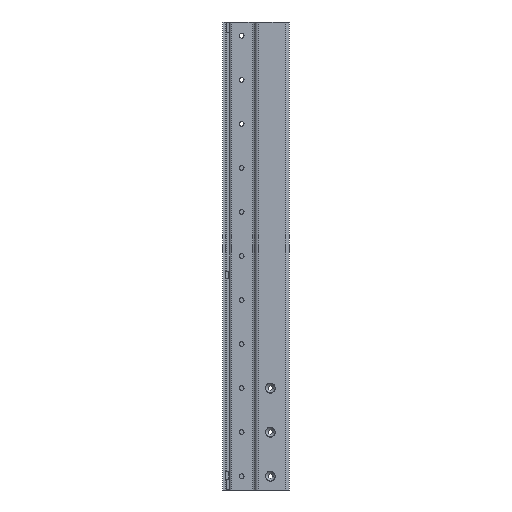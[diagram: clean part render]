
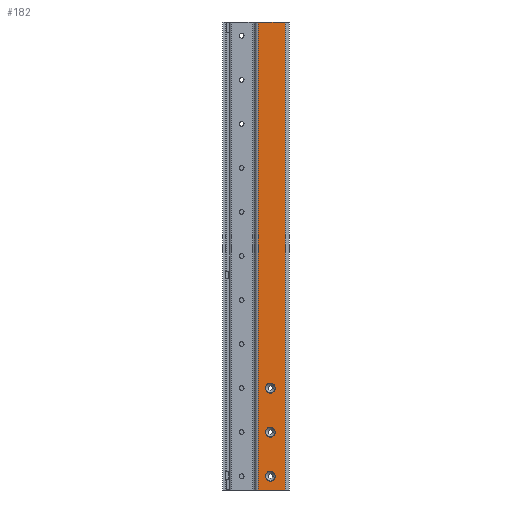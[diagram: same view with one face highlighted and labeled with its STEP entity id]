
A CAD part, left-side view. The second image highlights one B-rep face of the part: STEP entity #182.
In plain terms, the highlighted planar face has unit normal (-1, 0, 0).
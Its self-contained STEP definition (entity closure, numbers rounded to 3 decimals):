
#182=ADVANCED_FACE('',(#581,#582,#583,#584),#585,.T.);
#581=FACE_BOUND('',#1227,.T.);
#582=FACE_BOUND('',#1228,.T.);
#583=FACE_BOUND('',#1229,.T.);
#584=FACE_OUTER_BOUND('',#1230,.T.);
#585=PLANE('',#1231);
#1227=EDGE_LOOP('',(#2443,#2444));
#1228=EDGE_LOOP('',(#2445,#2446));
#1229=EDGE_LOOP('',(#2447,#2448));
#1230=EDGE_LOOP('',(#2449,#2450,#2451,#2452));
#1231=AXIS2_PLACEMENT_3D('',#2453,#2454,#2455);
#2443=ORIENTED_EDGE('',*,*,#4102,.T.);
#2444=ORIENTED_EDGE('',*,*,#4328,.T.);
#2445=ORIENTED_EDGE('',*,*,#4098,.T.);
#2446=ORIENTED_EDGE('',*,*,#4330,.T.);
#2447=ORIENTED_EDGE('',*,*,#4094,.T.);
#2448=ORIENTED_EDGE('',*,*,#4332,.T.);
#2449=ORIENTED_EDGE('',*,*,#4358,.T.);
#2450=ORIENTED_EDGE('',*,*,#4359,.F.);
#2451=ORIENTED_EDGE('',*,*,#4360,.T.);
#2452=ORIENTED_EDGE('',*,*,#4356,.T.);
#2453=CARTESIAN_POINT('',(-26.,-3.,0.0));
#2454=DIRECTION('',(-1.0,0.0,0.0));
#2455=DIRECTION('',(0.0,-1.0,0.0));
#4094=EDGE_CURVE('',#4874,#4871,#4875,.T.);
#4098=EDGE_CURVE('',#4882,#4879,#4883,.T.);
#4102=EDGE_CURVE('',#4890,#4887,#4891,.T.);
#4328=EDGE_CURVE('',#4887,#4890,#5266,.T.);
#4330=EDGE_CURVE('',#4879,#4882,#5268,.T.);
#4332=EDGE_CURVE('',#4871,#4874,#5270,.T.);
#4356=EDGE_CURVE('',#5311,#5309,#5312,.T.);
#4358=EDGE_CURVE('',#5309,#5314,#5315,.T.);
#4359=EDGE_CURVE('',#5316,#5314,#5317,.T.);
#4360=EDGE_CURVE('',#5316,#5311,#5318,.T.);
#4871=VERTEX_POINT('',#6153);
#4874=VERTEX_POINT('',#6157);
#4875=CIRCLE('',#6158,9.0);
#4879=VERTEX_POINT('',#6163);
#4882=VERTEX_POINT('',#6167);
#4883=CIRCLE('',#6168,9.0);
#4887=VERTEX_POINT('',#6173);
#4890=VERTEX_POINT('',#6177);
#4891=CIRCLE('',#6178,9.0);
#5266=CIRCLE('',#6732,9.0);
#5268=CIRCLE('',#6734,9.0);
#5270=CIRCLE('',#6736,9.0);
#5309=VERTEX_POINT('',#6793);
#5311=VERTEX_POINT('',#6795);
#5312=LINE('',#6796,#6797);
#5314=VERTEX_POINT('',#6799);
#5315=LINE('',#6800,#6801);
#5316=VERTEX_POINT('',#6802);
#5317=LINE('',#6803,#6804);
#5318=LINE('',#6805,#6806);
#6153=CARTESIAN_POINT('',(-26.,0.,34.0));
#6157=CARTESIAN_POINT('',(-26.,0.,16.0));
#6158=AXIS2_PLACEMENT_3D('',#7938,#7939,#7940);
#6163=CARTESIAN_POINT('',(-26.,0.,114.0));
#6167=CARTESIAN_POINT('',(-26.,0.,96.0));
#6168=AXIS2_PLACEMENT_3D('',#7946,#7947,#7948);
#6173=CARTESIAN_POINT('',(-26.,0.,194.0));
#6177=CARTESIAN_POINT('',(-26.,0.,176.0));
#6178=AXIS2_PLACEMENT_3D('',#7954,#7955,#7956);
#6732=AXIS2_PLACEMENT_3D('',#8274,#8275,#8276);
#6734=AXIS2_PLACEMENT_3D('',#8280,#8281,#8282);
#6736=AXIS2_PLACEMENT_3D('',#8286,#8287,#8288);
#6793=CARTESIAN_POINT('',(-26.,-27.5,850.0));
#6795=CARTESIAN_POINT('',(-26.,-27.5,0.0));
#6796=CARTESIAN_POINT('',(-26.,-27.5,0.0));
#6797=VECTOR('',#8322,1.0);
#6799=CARTESIAN_POINT('',(-26.,21.5,850.0));
#6800=CARTESIAN_POINT('',(-26.,21.5,850.0));
#6801=VECTOR('',#8326,1.0);
#6802=CARTESIAN_POINT('',(-26.,21.5,0.0));
#6803=CARTESIAN_POINT('',(-26.,21.5,0.0));
#6804=VECTOR('',#8327,1.0);
#6805=CARTESIAN_POINT('',(-26.,21.5,0.0));
#6806=VECTOR('',#8328,1.0);
#7938=CARTESIAN_POINT('',(-26.,0.0,25.0));
#7939=DIRECTION('',(1.0,0.0,-0.0));
#7940=DIRECTION('',(0.0,0.0,1.0));
#7946=CARTESIAN_POINT('',(-26.,0.0,105.0));
#7947=DIRECTION('',(1.0,0.0,-0.0));
#7948=DIRECTION('',(0.0,0.0,1.0));
#7954=CARTESIAN_POINT('',(-26.,0.0,185.0));
#7955=DIRECTION('',(1.0,0.0,-0.0));
#7956=DIRECTION('',(0.0,0.0,1.0));
#8274=CARTESIAN_POINT('',(-26.,0.0,185.0));
#8275=DIRECTION('',(1.0,0.0,-0.0));
#8276=DIRECTION('',(0.0,0.0,1.0));
#8280=CARTESIAN_POINT('',(-26.,0.0,105.0));
#8281=DIRECTION('',(1.0,0.0,-0.0));
#8282=DIRECTION('',(0.0,0.0,1.0));
#8286=CARTESIAN_POINT('',(-26.,0.0,25.0));
#8287=DIRECTION('',(1.0,0.0,-0.0));
#8288=DIRECTION('',(0.0,0.0,1.0));
#8322=DIRECTION('',(0.0,0.0,1.0));
#8326=DIRECTION('',(0.0,1.0,0.0));
#8327=DIRECTION('',(0.0,0.0,1.0));
#8328=DIRECTION('',(0.0,-1.0,0.0));
